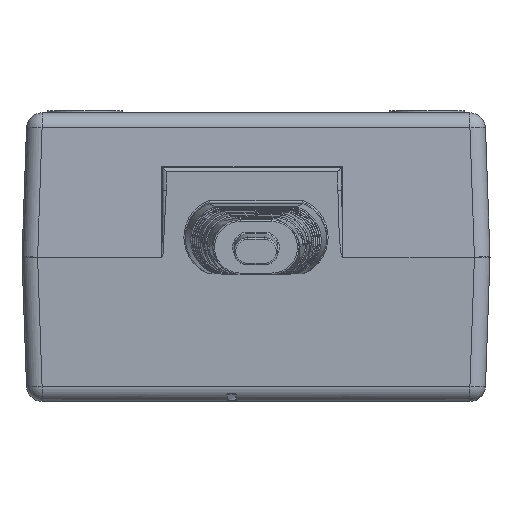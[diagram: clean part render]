
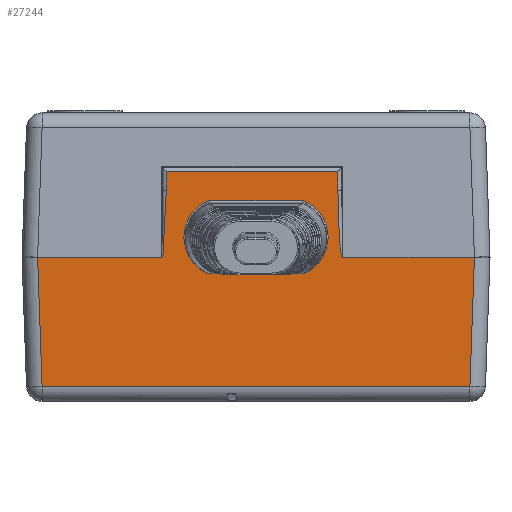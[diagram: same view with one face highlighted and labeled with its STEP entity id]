
A CAD part, front view. The second image highlights one B-rep face of the part: STEP entity #27244.
In plain terms, the highlighted planar face has unit normal (0, -0.999, -0.035).
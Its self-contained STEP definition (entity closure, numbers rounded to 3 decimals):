
#267 = EDGE_CURVE ( 'NONE', #24906, #24957, #5855, .T. ) ;
#268 = EDGE_CURVE ( 'NONE', #23083, #24906, #5699, .T. ) ;
#269 = EDGE_CURVE ( 'NONE', #24957, #24909, #9401, .T. ) ;
#270 = EDGE_CURVE ( 'NONE', #24909, #24713, #9403, .T. ) ;
#271 = EDGE_CURVE ( 'NONE', #24713, #24786, #5700, .T. ) ;
#272 = EDGE_CURVE ( 'NONE', #24786, #24868, #9398, .T. ) ;
#273 = EDGE_CURVE ( 'NONE', #24868, #24900, #9407, .T. ) ;
#274 = EDGE_CURVE ( 'NONE', #24900, #23278, #9409, .T. ) ;
#546 = AXIS2_PLACEMENT_3D ( 'NONE', #18329, #18356, #18359 ) ;
#554 = AXIS2_PLACEMENT_3D ( 'NONE', #18361, #18372, #18374 ) ;
#5699 =( BOUNDED_CURVE ( )  B_SPLINE_CURVE ( 3, ( #23938, #23935, #23934, #23933 ),
 .UNSPECIFIED., .F., .T. ) 
 B_SPLINE_CURVE_WITH_KNOTS ( ( 4, 4 ),
 ( 3.142, 4.712 ),
 .UNSPECIFIED. ) 
 CURVE ( )  GEOMETRIC_REPRESENTATION_ITEM ( )  RATIONAL_B_SPLINE_CURVE ( ( 1., 0.805, 0.805, 1. ) ) 
 REPRESENTATION_ITEM ( '' )  );
#5700 =( BOUNDED_CURVE ( )  B_SPLINE_CURVE ( 3, ( #23936, #23927, #23926, #23925 ),
 .UNSPECIFIED., .F., .F. ) 
 B_SPLINE_CURVE_WITH_KNOTS ( ( 4, 4 ),
 ( 4.712, 6.283 ),
 .UNSPECIFIED. ) 
 CURVE ( )  GEOMETRIC_REPRESENTATION_ITEM ( )  RATIONAL_B_SPLINE_CURVE ( ( 1., 0.805, 0.805, 1. ) ) 
 REPRESENTATION_ITEM ( '' )  );
#5828 = ORIENTED_EDGE ( 'NONE', *, *, #272, .T. ) ;
#5855 = LINE ( 'NONE', #24984, #9395 ) ;
#5912 = ORIENTED_EDGE ( 'NONE', *, *, #273, .T. ) ;
#5913 = ORIENTED_EDGE ( 'NONE', *, *, #274, .T. ) ;
#5924 = ORIENTED_EDGE ( 'NONE', *, *, #32504, .T. ) ;
#5925 = ORIENTED_EDGE ( 'NONE', *, *, #32498, .T. ) ;
#5926 = ORIENTED_EDGE ( 'NONE', *, *, #32501, .T. ) ;
#5927 = ORIENTED_EDGE ( 'NONE', *, *, #268, .T. ) ;
#5928 = ORIENTED_EDGE ( 'NONE', *, *, #271, .T. ) ;
#5929 = ORIENTED_EDGE ( 'NONE', *, *, #32499, .T. ) ;
#5933 = ORIENTED_EDGE ( 'NONE', *, *, #267, .T. ) ;
#5934 = ORIENTED_EDGE ( 'NONE', *, *, #269, .T. ) ;
#5935 = ORIENTED_EDGE ( 'NONE', *, *, #270, .T. ) ;
#5936 = ORIENTED_EDGE ( 'NONE', *, *, #32502, .T. ) ;
#5937 = ORIENTED_EDGE ( 'NONE', *, *, #32503, .T. ) ;
#9395 = VECTOR ( 'NONE', #23937, 1000. ) ;
#9398 = LINE ( 'NONE', #23924, #9406 ) ;
#9401 = LINE ( 'NONE', #23932, #9402 ) ;
#9402 = VECTOR ( 'NONE', #23931, 1000. ) ;
#9403 = LINE ( 'NONE', #23930, #9404 ) ;
#9404 = VECTOR ( 'NONE', #23929, 1000. ) ;
#9406 = VECTOR ( 'NONE', #23923, 1000. ) ;
#9407 = LINE ( 'NONE', #23922, #9408 ) ;
#9408 = VECTOR ( 'NONE', #23921, 1000. ) ;
#9409 = LINE ( 'NONE', #23920, #9410 ) ;
#9410 = VECTOR ( 'NONE', #23919, 1000. ) ;
#9865 = AXIS2_PLACEMENT_3D ( 'NONE', #20055, #20032, #20028 ) ;
#18246 = CARTESIAN_POINT ( 'NONE',  ( -30., -58.925, -2.138 ) ) ;
#18329 = CARTESIAN_POINT ( 'NONE',  ( -4.2, -59.089, 2.56 ) ) ;
#18331 = CARTESIAN_POINT ( 'NONE',  ( 11.1, -58.999, -0.017 ) ) ;
#18334 = DIRECTION ( 'NONE',  ( -1., 0., 0. ) ) ;
#18339 = CARTESIAN_POINT ( 'NONE',  ( 27.931, -58.929, -2.021 ) ) ;
#18342 = DIRECTION ( 'NONE',  ( 0.035, -0.035, 0.999 ) ) ;
#18356 = DIRECTION ( 'NONE',  ( 0., 0.999, 0.035 ) ) ;
#18359 = DIRECTION ( 'NONE',  ( 0., 0.035, -0.999 ) ) ;
#18361 = CARTESIAN_POINT ( 'NONE',  ( 4.2, -59.089, 2.56 ) ) ;
#18364 = DIRECTION ( 'NONE',  ( -1., 0., 0. ) ) ;
#18372 = DIRECTION ( 'NONE',  ( 0., 0.999, 0.035 ) ) ;
#18374 = DIRECTION ( 'NONE',  ( 0., 0.035, -0.999 ) ) ;
#18379 = CARTESIAN_POINT ( 'NONE',  ( -30., -59.253, 7.257 ) ) ;
#18381 = DIRECTION ( 'NONE',  ( 1., 0., 0. ) ) ;
#20028 = DIRECTION ( 'NONE',  ( 0., 0.035, -0.999 ) ) ;
#20032 = DIRECTION ( 'NONE',  ( 0., -0.999, -0.035 ) ) ;
#20055 = CARTESIAN_POINT ( 'NONE',  ( -30., -59., 0. ) ) ;
#20061 = PLANE ( 'NONE',  #9865 ) ;
#21050 = CARTESIAN_POINT ( 'NONE',  ( 27.423, -58.421, -16.57 ) ) ;
#21130 = CARTESIAN_POINT ( 'NONE',  ( 11.1, -58.999, -0.017 ) ) ;
#23083 = VERTEX_POINT ( 'NONE', #21130 ) ;
#23278 = VERTEX_POINT ( 'NONE', #21050 ) ;
#23919 = DIRECTION ( 'NONE',  ( 1., 0., 0. ) ) ;
#23920 = CARTESIAN_POINT ( 'NONE',  ( 29.354, -58.421, -16.57 ) ) ;
#23921 = DIRECTION ( 'NONE',  ( 0.035, 0.035, -0.999 ) ) ;
#23922 = CARTESIAN_POINT ( 'NONE',  ( -28.004, -59.002, 0.07 ) ) ;
#23923 = DIRECTION ( 'NONE',  ( -1., 0., 0. ) ) ;
#23924 = CARTESIAN_POINT ( 'NONE',  ( -28.001, -58.999, -0.017 ) ) ;
#23925 = CARTESIAN_POINT ( 'NONE',  ( -12.1, -58.999, -0.017 ) ) ;
#23926 = CARTESIAN_POINT ( 'NONE',  ( -11.749, -58.999, -0.017 ) ) ;
#23927 = CARTESIAN_POINT ( 'NONE',  ( -11.5, -59.124, 3.543 ) ) ;
#23929 = DIRECTION ( 'NONE',  ( 0., 0.035, -0.999 ) ) ;
#23930 = CARTESIAN_POINT ( 'NONE',  ( -11.5, -59., 0. ) ) ;
#23931 = DIRECTION ( 'NONE',  ( -1., 0., 0. ) ) ;
#23932 = CARTESIAN_POINT ( 'NONE',  ( -30., -59.384, 10.983 ) ) ;
#23933 = CARTESIAN_POINT ( 'NONE',  ( 10.5, -59.3, 8.579 ) ) ;
#23934 = CARTESIAN_POINT ( 'NONE',  ( 10.5, -59.124, 3.543 ) ) ;
#23935 = CARTESIAN_POINT ( 'NONE',  ( 10.749, -58.999, -0.017 ) ) ;
#23936 = CARTESIAN_POINT ( 'NONE',  ( -11.5, -59.3, 8.579 ) ) ;
#23937 = DIRECTION ( 'NONE',  ( 0., -0.035, 0.999 ) ) ;
#23938 = CARTESIAN_POINT ( 'NONE',  ( 11.1, -58.999, -0.017 ) ) ;
#24326 = VERTEX_POINT ( 'NONE', #26812 ) ;
#24712 = VERTEX_POINT ( 'NONE', #26754 ) ;
#24713 = VERTEX_POINT ( 'NONE', #26753 ) ;
#24786 = VERTEX_POINT ( 'NONE', #26663 ) ;
#24846 = VERTEX_POINT ( 'NONE', #26588 ) ;
#24868 = VERTEX_POINT ( 'NONE', #26560 ) ;
#24900 = VERTEX_POINT ( 'NONE', #26520 ) ;
#24906 = VERTEX_POINT ( 'NONE', #26513 ) ;
#24909 = VERTEX_POINT ( 'NONE', #26509 ) ;
#24935 = VERTEX_POINT ( 'NONE', #26478 ) ;
#24957 = VERTEX_POINT ( 'NONE', #26451 ) ;
#24975 = VERTEX_POINT ( 'NONE', #26428 ) ;
#24984 = CARTESIAN_POINT ( 'NONE',  ( 10.5, -59., 0. ) ) ;
#25697 = FACE_BOUND ( 'NONE', #26343, .T. ) ;
#25705 = FACE_OUTER_BOUND ( 'NONE', #26339, .T. ) ;
#26339 = EDGE_LOOP ( 'NONE', ( #5929, #5925, #5927, #5933, #5934, #5935, #5928, #5828, #5912, #5913 ) ) ;
#26343 = EDGE_LOOP ( 'NONE', ( #5937, #5936, #5926, #5924 ) ) ;
#26428 = CARTESIAN_POINT ( 'NONE',  ( 6.038, -58.925, -2.138 ) ) ;
#26451 = CARTESIAN_POINT ( 'NONE',  ( 10.5, -59.384, 10.983 ) ) ;
#26478 = CARTESIAN_POINT ( 'NONE',  ( -6.038, -58.925, -2.138 ) ) ;
#26509 = CARTESIAN_POINT ( 'NONE',  ( -11.5, -59.384, 10.983 ) ) ;
#26513 = CARTESIAN_POINT ( 'NONE',  ( 10.5, -59.3, 8.579 ) ) ;
#26520 = CARTESIAN_POINT ( 'NONE',  ( -27.423, -58.421, -16.57 ) ) ;
#26560 = CARTESIAN_POINT ( 'NONE',  ( -28.001, -58.999, -0.017 ) ) ;
#26588 = CARTESIAN_POINT ( 'NONE',  ( 6.038, -59.253, 7.257 ) ) ;
#26663 = CARTESIAN_POINT ( 'NONE',  ( -12.1, -58.999, -0.017 ) ) ;
#26753 = CARTESIAN_POINT ( 'NONE',  ( -11.5, -59.3, 8.579 ) ) ;
#26754 = CARTESIAN_POINT ( 'NONE',  ( -6.038, -59.253, 7.257 ) ) ;
#26812 = CARTESIAN_POINT ( 'NONE',  ( 28.001, -58.999, -0.017 ) ) ;
#27244 = ADVANCED_FACE ( 'NONE', ( #25697, #25705 ), #20061, .T. ) ;
#32071 = VECTOR ( 'NONE', #18364, 1000. ) ;
#32079 = LINE ( 'NONE', #18331, #32083 ) ;
#32083 = VECTOR ( 'NONE', #18334, 1000. ) ;
#32084 = VECTOR ( 'NONE', #18381, 1000. ) ;
#32085 = LINE ( 'NONE', #18339, #32086 ) ;
#32086 = VECTOR ( 'NONE', #18342, 1000. ) ;
#32089 = LINE ( 'NONE', #18379, #32084 ) ;
#32090 = LINE ( 'NONE', #18246, #32071 ) ;
#32091 = CIRCLE ( 'NONE', #546, 5.047 ) ;
#32093 = CIRCLE ( 'NONE', #554, 5.047 ) ;
#32498 = EDGE_CURVE ( 'NONE', #24326, #23083, #32079, .T. ) ;
#32499 = EDGE_CURVE ( 'NONE', #23278, #24326, #32085, .T. ) ;
#32501 = EDGE_CURVE ( 'NONE', #24935, #24712, #32091, .T. ) ;
#32502 = EDGE_CURVE ( 'NONE', #24975, #24935, #32090, .T. ) ;
#32503 = EDGE_CURVE ( 'NONE', #24846, #24975, #32093, .T. ) ;
#32504 = EDGE_CURVE ( 'NONE', #24712, #24846, #32089, .T. ) ;
